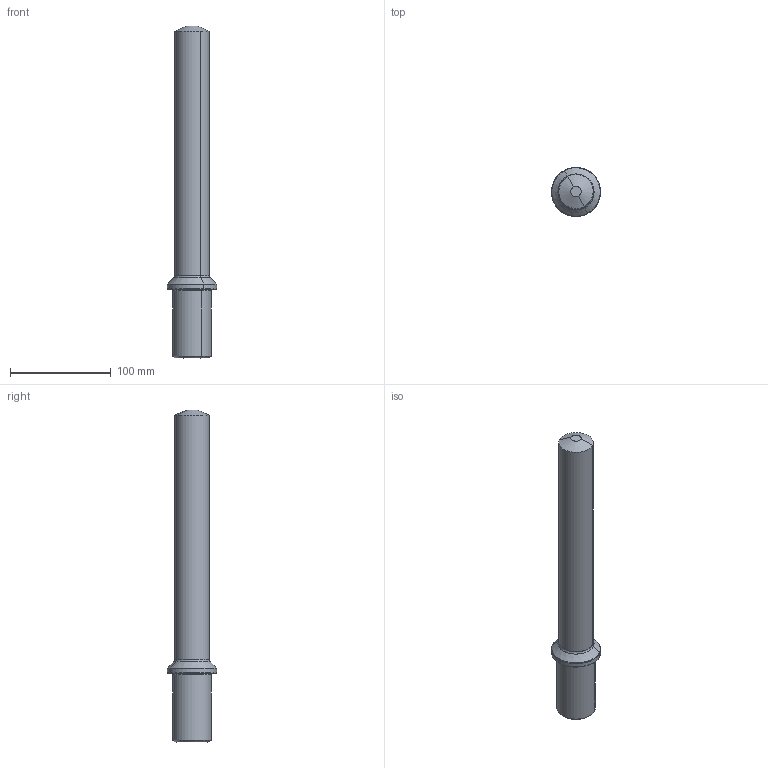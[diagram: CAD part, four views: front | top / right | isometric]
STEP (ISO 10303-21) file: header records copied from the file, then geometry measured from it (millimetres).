
FILE_DESCRIPTION(/* description */ (''),/* implementation_level */ '2;1');
FILE_NAME(/* name */ 'Z30SDSF125I.stp',/* time_stamp */ '2022-06-24T10:33:55+09:00',/* author */ (''),/* organization */ (''),/* preprocessor_version */ 'ST-DEVELOPER v16.7',/* originating_system */ 'SIEMENS PLM Software NX 12.0',/* authorisation */ '');
FILE_SCHEMA (('AUTOMOTIVE_DESIGN { 1 0 10303 214 3 1 1 1 }'));
Length unit declared in the file: millimetre
Products named in the file (1): 12012974095Bycjk
Bounding box: 48.99 x 48.99 x 330.2 mm (x, y, z)
Surface area: 39230.8 mm2 (no closed solid volume)
Topology: 0 solids, 32 shells, 32 faces, 124 edges, 124 vertices
Faces by surface type: cone 12, cylinder 8, torus 8, plane 4
Entity records: 1884 total; most frequent: CARTESIAN_POINT 671, DIRECTION 166, ORIENTED_EDGE 124, VERTEX_POINT 124, EDGE_CURVE 124, AXIS2_PLACEMENT_3D 75, B_SPLINE_CURVE_WITH_KNOTS 68, CIRCLE 40
